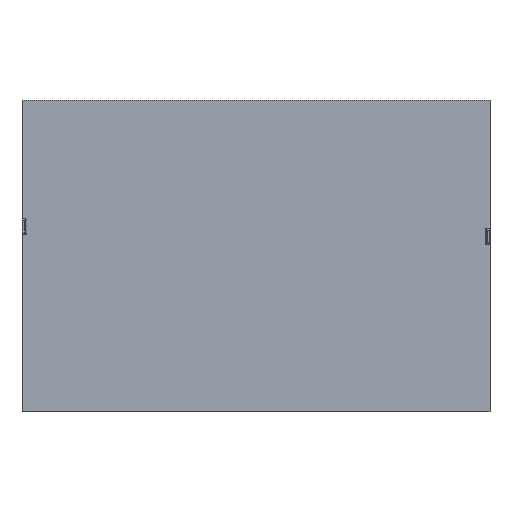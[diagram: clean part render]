
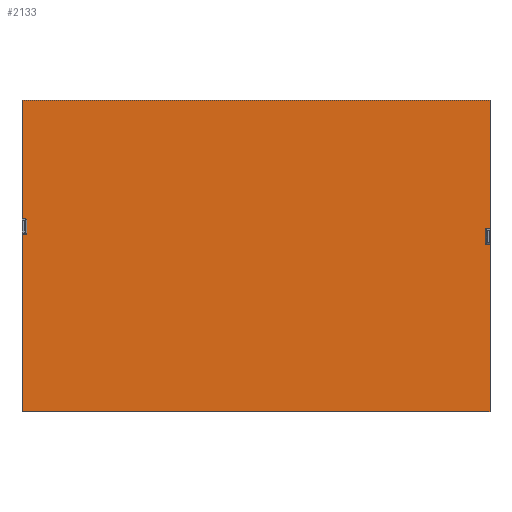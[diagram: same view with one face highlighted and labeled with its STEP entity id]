
A CAD part, front view. The second image highlights one B-rep face of the part: STEP entity #2133.
In plain terms, the highlighted planar face has unit normal (0, -1, 0).
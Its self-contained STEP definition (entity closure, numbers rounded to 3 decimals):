
#43 = FACE_OUTER_BOUND ( 'NONE', #3230, .T. ) ;
#62 = CARTESIAN_POINT ( 'NONE',  ( 299.875, 0., 199.875 ) ) ;
#67 = ORIENTED_EDGE ( 'NONE', *, *, #2372, .F. ) ;
#82 = PLANE ( 'NONE',  #2542 ) ;
#112 = DIRECTION ( 'NONE',  ( -1., 0., 0. ) ) ;
#120 = EDGE_CURVE ( 'NONE', #2228, #2719, #957, .T. ) ;
#125 = CARTESIAN_POINT ( 'NONE',  ( 295.5, 0., 35. ) ) ;
#223 = CARTESIAN_POINT ( 'NONE',  ( -299.875, 0., -199.875 ) ) ;
#267 = CARTESIAN_POINT ( 'NONE',  ( -299.875, 0., -199.875 ) ) ;
#271 = VERTEX_POINT ( 'NONE', #1661 ) ;
#275 = DIRECTION ( 'NONE',  ( 0., 0., -1. ) ) ;
#281 = DIRECTION ( 'NONE',  ( 0., 1., 0. ) ) ;
#282 = CIRCLE ( 'NONE', #2373, 1.5 ) ;
#301 = CARTESIAN_POINT ( 'NONE',  ( -299.875, 0., -199.875 ) ) ;
#308 = ORIENTED_EDGE ( 'NONE', *, *, #408, .T. ) ;
#344 = VERTEX_POINT ( 'NONE', #2910 ) ;
#393 = ORIENTED_EDGE ( 'NONE', *, *, #1375, .F. ) ;
#405 = DIRECTION ( 'NONE',  ( 0., 0., -1. ) ) ;
#408 = EDGE_CURVE ( 'NONE', #1305, #1866, #2891, .T. ) ;
#438 = EDGE_CURVE ( 'NONE', #1389, #1782, #1413, .T. ) ;
#450 = CARTESIAN_POINT ( 'NONE',  ( -294., 0., 29. ) ) ;
#458 = VECTOR ( 'NONE', #1587, 1000. ) ;
#474 = AXIS2_PLACEMENT_3D ( 'NONE', #3182, #3165, #3153 ) ;
#600 = LINE ( 'NONE', #1332, #902 ) ;
#614 = DIRECTION ( 'NONE',  ( 1., 0., 0. ) ) ;
#677 = EDGE_CURVE ( 'NONE', #3272, #3336, #1943, .T. ) ;
#701 = DIRECTION ( 'NONE',  ( 0., 1., 0. ) ) ;
#763 = EDGE_CURVE ( 'NONE', #3336, #1071, #2083, .T. ) ;
#785 = DIRECTION ( 'NONE',  ( 0., 0., -1. ) ) ;
#808 = EDGE_CURVE ( 'NONE', #2719, #3301, #2129, .T. ) ;
#809 = ORIENTED_EDGE ( 'NONE', *, *, #1031, .T. ) ;
#886 = CARTESIAN_POINT ( 'NONE',  ( -294., 0., 27.5 ) ) ;
#902 = VECTOR ( 'NONE', #1365, 1000. ) ;
#957 = LINE ( 'NONE', #2222, #992 ) ;
#976 = CARTESIAN_POINT ( 'NONE',  ( 295.5, 0., 15. ) ) ;
#990 = AXIS2_PLACEMENT_3D ( 'NONE', #1672, #281, #1197 ) ;
#992 = VECTOR ( 'NONE', #2227, 1000. ) ;
#998 = VERTEX_POINT ( 'NONE', #976 ) ;
#1015 = CARTESIAN_POINT ( 'NONE',  ( -295.5, 0., 29. ) ) ;
#1031 = EDGE_CURVE ( 'NONE', #3238, #2827, #2564, .T. ) ;
#1032 = CARTESIAN_POINT ( 'NONE',  ( 299.875, 0., 15. ) ) ;
#1060 = CARTESIAN_POINT ( 'NONE',  ( -299.875, 0., 27.5 ) ) ;
#1067 = CARTESIAN_POINT ( 'NONE',  ( 299.875, 0., -199.875 ) ) ;
#1071 = VERTEX_POINT ( 'NONE', #1391 ) ;
#1098 = ORIENTED_EDGE ( 'NONE', *, *, #808, .T. ) ;
#1103 = ORIENTED_EDGE ( 'NONE', *, *, #1206, .T. ) ;
#1136 = CARTESIAN_POINT ( 'NONE',  ( 295.5, 0., 16.5 ) ) ;
#1188 = ORIENTED_EDGE ( 'NONE', *, *, #1610, .T. ) ;
#1197 = DIRECTION ( 'NONE',  ( 0., 0., 1. ) ) ;
#1206 = EDGE_CURVE ( 'NONE', #344, #3272, #2765, .T. ) ;
#1305 = VERTEX_POINT ( 'NONE', #1562 ) ;
#1317 = ORIENTED_EDGE ( 'NONE', *, *, #3466, .T. ) ;
#1332 = CARTESIAN_POINT ( 'NONE',  ( 294., 0., 15. ) ) ;
#1365 = DIRECTION ( 'NONE',  ( 1., 0., 0. ) ) ;
#1375 = EDGE_CURVE ( 'NONE', #3238, #271, #3096, .T. ) ;
#1389 = VERTEX_POINT ( 'NONE', #3025 ) ;
#1391 = CARTESIAN_POINT ( 'NONE',  ( -299.875, 0., 47.5 ) ) ;
#1408 = DIRECTION ( 'NONE',  ( 0., 0., 1. ) ) ;
#1413 = LINE ( 'NONE', #2318, #1457 ) ;
#1437 = EDGE_CURVE ( 'NONE', #3047, #1866, #3190, .T. ) ;
#1457 = VECTOR ( 'NONE', #2515, 1000. ) ;
#1562 = CARTESIAN_POINT ( 'NONE',  ( -295.5, 0., 47.5 ) ) ;
#1587 = DIRECTION ( 'NONE',  ( -1., 0., 0. ) ) ;
#1589 = CARTESIAN_POINT ( 'NONE',  ( -294., 0., 46. ) ) ;
#1610 = EDGE_CURVE ( 'NONE', #3301, #1389, #3167, .T. ) ;
#1637 = ORIENTED_EDGE ( 'NONE', *, *, #3255, .F. ) ;
#1661 = CARTESIAN_POINT ( 'NONE',  ( 294., 0., 16.5 ) ) ;
#1672 = CARTESIAN_POINT ( 'NONE',  ( 295.5, 0., 33.5 ) ) ;
#1724 = ORIENTED_EDGE ( 'NONE', *, *, #2480, .T. ) ;
#1748 = VECTOR ( 'NONE', #112, 1000. ) ;
#1779 = CIRCLE ( 'NONE', #2323, 1.5 ) ;
#1782 = VERTEX_POINT ( 'NONE', #1032 ) ;
#1814 = CARTESIAN_POINT ( 'NONE',  ( -295.5, 0., 27.5 ) ) ;
#1831 = ORIENTED_EDGE ( 'NONE', *, *, #438, .T. ) ;
#1866 = VERTEX_POINT ( 'NONE', #1589 ) ;
#1894 = VECTOR ( 'NONE', #2100, 1000. ) ;
#1943 = LINE ( 'NONE', #62, #1748 ) ;
#2005 = VECTOR ( 'NONE', #405, 1000. ) ;
#2083 = LINE ( 'NONE', #223, #2005 ) ;
#2100 = DIRECTION ( 'NONE',  ( 0., 0., 1. ) ) ;
#2129 = LINE ( 'NONE', #301, #2177 ) ;
#2133 = ADVANCED_FACE ( 'NONE', ( #43 ), #82, .F. ) ;
#2172 = CARTESIAN_POINT ( 'NONE',  ( 294., 0., 33.5 ) ) ;
#2177 = VECTOR ( 'NONE', #275, 1000. ) ;
#2203 = ORIENTED_EDGE ( 'NONE', *, *, #2713, .T. ) ;
#2222 = CARTESIAN_POINT ( 'NONE',  ( -294., 0., 27.5 ) ) ;
#2227 = DIRECTION ( 'NONE',  ( -1., 0., 0. ) ) ;
#2228 = VERTEX_POINT ( 'NONE', #1814 ) ;
#2232 = VECTOR ( 'NONE', #614, 1000. ) ;
#2318 = CARTESIAN_POINT ( 'NONE',  ( 299.875, 0., -199.875 ) ) ;
#2323 = AXIS2_PLACEMENT_3D ( 'NONE', #1015, #701, #2668 ) ;
#2372 = EDGE_CURVE ( 'NONE', #998, #1782, #600, .T. ) ;
#2373 = AXIS2_PLACEMENT_3D ( 'NONE', #1136, #3112, #1408 ) ;
#2421 = ORIENTED_EDGE ( 'NONE', *, *, #763, .T. ) ;
#2428 = CARTESIAN_POINT ( 'NONE',  ( 0., 0., 0. ) ) ;
#2430 = ORIENTED_EDGE ( 'NONE', *, *, #677, .T. ) ;
#2449 = DIRECTION ( 'NONE',  ( 0., 1., 0. ) ) ;
#2468 = CARTESIAN_POINT ( 'NONE',  ( 294., 0., 35. ) ) ;
#2480 = EDGE_CURVE ( 'NONE', #3047, #2228, #1779, .T. ) ;
#2483 = DIRECTION ( 'NONE',  ( 1., 0., 0. ) ) ;
#2515 = DIRECTION ( 'NONE',  ( 0., 0., 1. ) ) ;
#2521 = LINE ( 'NONE', #2608, #2232 ) ;
#2542 = AXIS2_PLACEMENT_3D ( 'NONE', #2428, #2449, #3513 ) ;
#2564 = CIRCLE ( 'NONE', #990, 1.5 ) ;
#2600 = DIRECTION ( 'NONE',  ( 0., 0., 1. ) ) ;
#2608 = CARTESIAN_POINT ( 'NONE',  ( 294., 0., 35. ) ) ;
#2668 = DIRECTION ( 'NONE',  ( 0., 0., 1. ) ) ;
#2713 = EDGE_CURVE ( 'NONE', #2827, #344, #2521, .T. ) ;
#2719 = VERTEX_POINT ( 'NONE', #1060 ) ;
#2765 = LINE ( 'NONE', #1067, #2846 ) ;
#2827 = VERTEX_POINT ( 'NONE', #125 ) ;
#2846 = VECTOR ( 'NONE', #2600, 1000. ) ;
#2848 = LINE ( 'NONE', #3554, #458 ) ;
#2891 = CIRCLE ( 'NONE', #474, 1.5 ) ;
#2910 = CARTESIAN_POINT ( 'NONE',  ( 299.875, 0., 35. ) ) ;
#3025 = CARTESIAN_POINT ( 'NONE',  ( 299.875, 0., -199.875 ) ) ;
#3029 = CARTESIAN_POINT ( 'NONE',  ( 299.875, 0., 199.875 ) ) ;
#3047 = VERTEX_POINT ( 'NONE', #450 ) ;
#3051 = CARTESIAN_POINT ( 'NONE',  ( -299.875, 0., 199.875 ) ) ;
#3096 = LINE ( 'NONE', #2468, #3123 ) ;
#3112 = DIRECTION ( 'NONE',  ( 0., 1., 0. ) ) ;
#3123 = VECTOR ( 'NONE', #785, 1000. ) ;
#3153 = DIRECTION ( 'NONE',  ( 0., 0., 1. ) ) ;
#3165 = DIRECTION ( 'NONE',  ( 0., 1., 0. ) ) ;
#3167 = LINE ( 'NONE', #3319, #3522 ) ;
#3174 = ORIENTED_EDGE ( 'NONE', *, *, #1437, .F. ) ;
#3182 = CARTESIAN_POINT ( 'NONE',  ( -295.5, 0., 46. ) ) ;
#3190 = LINE ( 'NONE', #886, #1894 ) ;
#3230 = EDGE_LOOP ( 'NONE', ( #2421, #1637, #308, #3174, #1724, #3264, #1098, #1188, #1831, #67, #1317, #393, #809, #2203, #1103, #2430 ) ) ;
#3238 = VERTEX_POINT ( 'NONE', #2172 ) ;
#3255 = EDGE_CURVE ( 'NONE', #1305, #1071, #2848, .T. ) ;
#3264 = ORIENTED_EDGE ( 'NONE', *, *, #120, .T. ) ;
#3272 = VERTEX_POINT ( 'NONE', #3029 ) ;
#3301 = VERTEX_POINT ( 'NONE', #267 ) ;
#3319 = CARTESIAN_POINT ( 'NONE',  ( 299.875, 0., -199.875 ) ) ;
#3336 = VERTEX_POINT ( 'NONE', #3051 ) ;
#3466 = EDGE_CURVE ( 'NONE', #998, #271, #282, .T. ) ;
#3513 = DIRECTION ( 'NONE',  ( 0., 0., 1. ) ) ;
#3522 = VECTOR ( 'NONE', #2483, 1000. ) ;
#3554 = CARTESIAN_POINT ( 'NONE',  ( -294., 0., 47.5 ) ) ;
